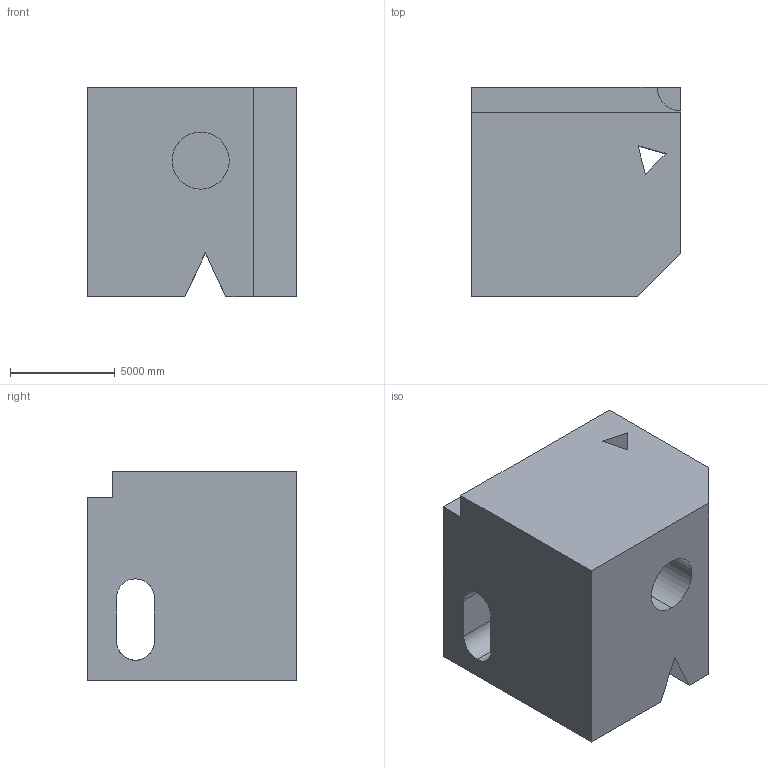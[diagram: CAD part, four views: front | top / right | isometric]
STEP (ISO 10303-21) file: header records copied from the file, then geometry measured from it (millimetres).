
FILE_DESCRIPTION (( 'STEP AP203' ), '1' );
FILE_NAME ('1655.STEP', '2022-08-19T11:24:43', ( 'user' ), ( '' ), 'SwSTEP 2.0', 'SolidWorks 2021', '' );
FILE_SCHEMA (( 'CONFIG_CONTROL_DESIGN' ));
Length unit declared in the file: centimetre
Products named in the file (1): 1655
Bounding box: 10000 x 10000 x 10000 mm (x, y, z)
Volume: 835799301333 mm3; surface area: 755670342.6 mm2
Topology: 1 solids, 1 shells, 29 faces, 90 edges, 60 vertices
Faces by surface type: plane 21, cylinder 8
Entity records: 1089 total; most frequent: CARTESIAN_POINT 210, ORIENTED_EDGE 180, DIRECTION 152, EDGE_CURVE 90, LINE 68, VECTOR 68, VERTEX_POINT 60, AXIS2_PLACEMENT_3D 42
